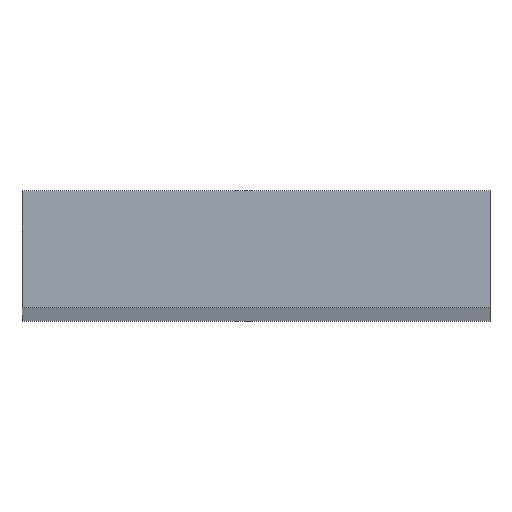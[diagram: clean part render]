
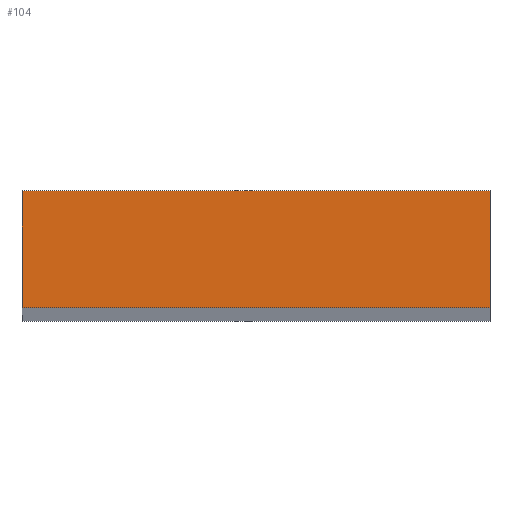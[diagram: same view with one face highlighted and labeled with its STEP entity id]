
A CAD part, top view. The second image highlights one B-rep face of the part: STEP entity #104.
In plain terms, the highlighted planar face has unit normal (0, 0, 1).
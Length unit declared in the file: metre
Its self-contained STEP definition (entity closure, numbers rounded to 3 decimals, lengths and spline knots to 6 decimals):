
#18=FACE_OUTER_BOUND('',#24,.T.);
#24=EDGE_LOOP('',(#86,#87,#88,#89));
#28=LINE('',#149,#40);
#32=LINE('',#156,#44);
#35=LINE('',#162,#47);
#37=LINE('',#165,#49);
#40=VECTOR('',#121,0.015);
#44=VECTOR('',#127,0.06);
#47=VECTOR('',#132,0.015);
#49=VECTOR('',#136,0.06);
#52=VERTEX_POINT('',#146);
#53=VERTEX_POINT('',#148);
#55=VERTEX_POINT('',#154);
#57=VERTEX_POINT('',#160);
#60=EDGE_CURVE('',#53,#52,#28,.T.);
#64=EDGE_CURVE('',#52,#55,#32,.T.);
#67=EDGE_CURVE('',#55,#57,#35,.T.);
#69=EDGE_CURVE('',#57,#53,#37,.T.);
#86=ORIENTED_EDGE('',*,*,#60,.T.);
#87=ORIENTED_EDGE('',*,*,#64,.T.);
#88=ORIENTED_EDGE('',*,*,#67,.T.);
#89=ORIENTED_EDGE('',*,*,#69,.T.);
#98=PLANE('',#113);
#104=ADVANCED_FACE('',(#18),#98,.T.);
#113=AXIS2_PLACEMENT_3D('',#166,#137,#138);
#121=DIRECTION('',(0.,-1.,0.));
#127=DIRECTION('',(1.,0.,0.));
#132=DIRECTION('',(0.,1.,0.));
#136=DIRECTION('',(-1.,0.,0.));
#137=DIRECTION('center_axis',(0.,0.,1.));
#138=DIRECTION('ref_axis',(1.,0.,0.));
#146=CARTESIAN_POINT('',(-0.03,-0.0075,1.));
#148=CARTESIAN_POINT('',(-0.03,0.0075,1.));
#149=CARTESIAN_POINT('',(-0.03,0.0075,1.));
#154=CARTESIAN_POINT('',(0.03,-0.0075,1.));
#156=CARTESIAN_POINT('',(-0.03,-0.0075,1.));
#160=CARTESIAN_POINT('',(0.03,0.0075,1.));
#162=CARTESIAN_POINT('',(0.03,-0.0075,1.));
#165=CARTESIAN_POINT('',(0.03,0.0075,1.));
#166=CARTESIAN_POINT('Origin',(0.,0.,1.));
